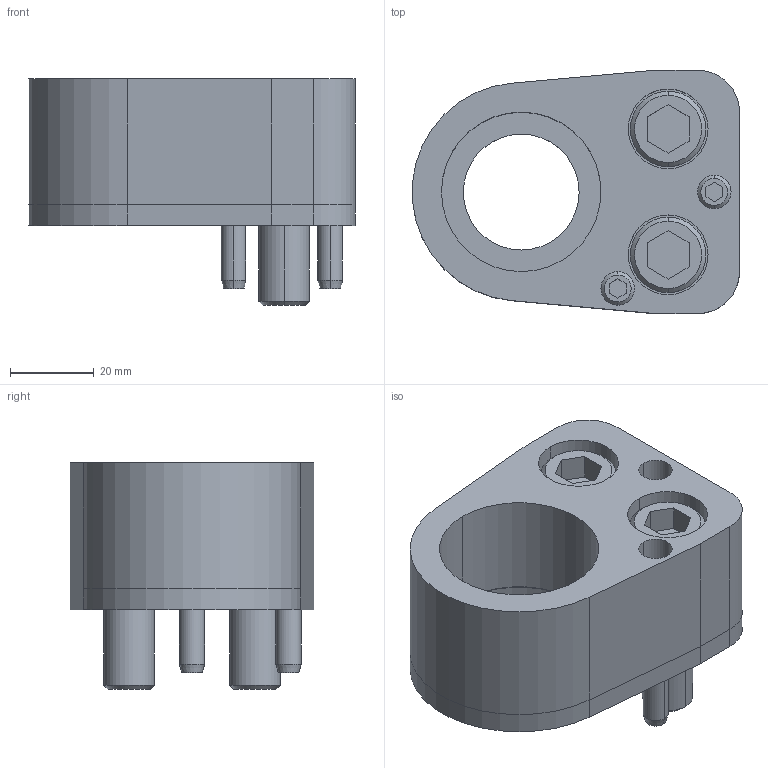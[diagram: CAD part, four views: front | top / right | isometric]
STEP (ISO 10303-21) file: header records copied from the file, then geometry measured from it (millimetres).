
FILE_DESCRIPTION(/* description */ (''),/* implementation_level */ '2;1');
FILE_NAME(/* name */ '3d_cp-ad38_03059_r00.stp',/* time_stamp */ '2011-01-10T14:16:31+09:00',/* author */ ('MISUMI'),/* organization */ (''),/* preprocessor_version */ 'ST-DEVELOPER v11',/* originating_system */ 'UGS - NX 5.0',/* authorisation */ '');
FILE_SCHEMA (('CONFIG_CONTROL_DESIGN'));
Length unit declared in the file: millimetre
Products named in the file (1): 3d_cp-ad38_03059_r00
Bounding box: 77.9 x 58 x 54 mm (x, y, z)
Volume: 99542.4 mm3; surface area: 35942.1 mm2
Topology: 8 solids, 8 shells, 155 faces, 346 edges, 222 vertices
Faces by surface type: plane 67, cylinder 62, cone 26
Entity records: 4474 total; most frequent: DIRECTION 804, CARTESIAN_POINT 772, ORIENTED_EDGE 692, EDGE_CURVE 346, AXIS2_PLACEMENT_3D 306, VERTEX_POINT 222, LINE 192, VECTOR 192
